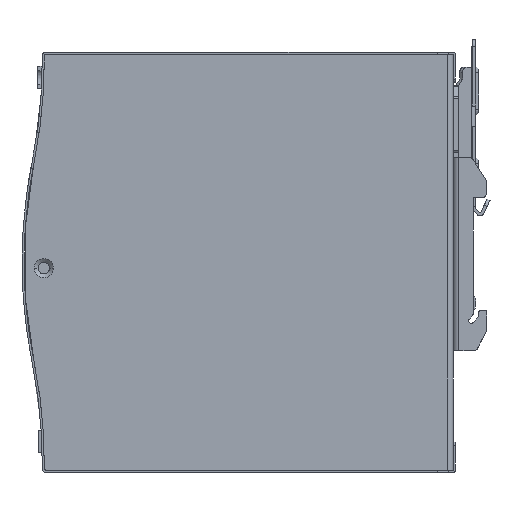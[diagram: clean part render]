
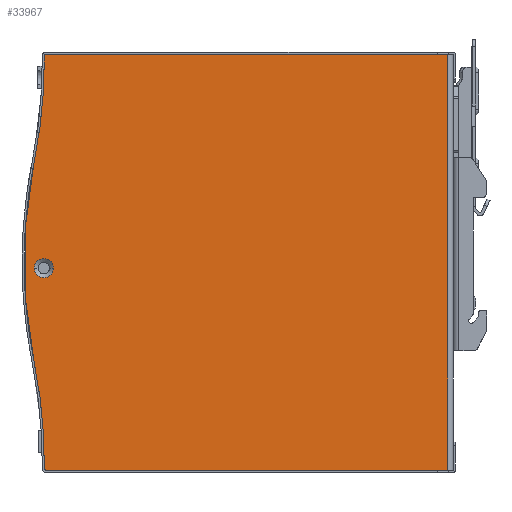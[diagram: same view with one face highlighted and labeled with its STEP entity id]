
A CAD part, front view. The second image highlights one B-rep face of the part: STEP entity #33967.
In plain terms, the highlighted planar face has unit normal (0, -1, 0).
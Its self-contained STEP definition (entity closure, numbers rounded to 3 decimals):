
#570 = VERTEX_POINT ( 'NONE', #96177 ) ;
#1833 = LINE ( 'NONE', #46969, #77829 ) ;
#3361 = ORIENTED_EDGE ( 'NONE', *, *, #22658, .T. ) ;
#3847 = CIRCLE ( 'NONE', #33055, 150. ) ;
#3962 = DIRECTION ( 'NONE',  ( 1., 0., 0. ) ) ;
#10955 = FACE_OUTER_BOUND ( 'NONE', #60571, .T. ) ;
#12974 = AXIS2_PLACEMENT_3D ( 'NONE', #92731, #93297, #56201 ) ;
#15645 = ORIENTED_EDGE ( 'NONE', *, *, #52865, .F. ) ;
#15703 = DIRECTION ( 'NONE',  ( 0., 0., -1. ) ) ;
#15890 = CARTESIAN_POINT ( 'NONE',  ( -21.597, 13.236, 10.25 ) ) ;
#16259 = CARTESIAN_POINT ( 'NONE',  ( -23.789, 13.236, 74. ) ) ;
#16973 = VERTEX_POINT ( 'NONE', #93602 ) ;
#17224 = DIRECTION ( 'NONE',  ( 0., 0., -1. ) ) ;
#18149 = CARTESIAN_POINT ( 'NONE',  ( -27.314, 13.236, 42.01 ) ) ;
#20495 = CARTESIAN_POINT ( 'NONE',  ( -24.447, 13.236, 10.25 ) ) ;
#21107 = CARTESIAN_POINT ( 'NONE',  ( -23.789, 13.236, -50. ) ) ;
#22658 = EDGE_CURVE ( 'NONE', #55565, #65569, #44097, .T. ) ;
#23880 = DIRECTION ( 'NONE',  ( 0., -1., 0. ) ) ;
#26128 = CIRCLE ( 'NONE', #79093, 150. ) ;
#26622 = DIRECTION ( 'NONE',  ( 0., -1., 0. ) ) ;
#26975 = ORIENTED_EDGE ( 'NONE', *, *, #112617, .F. ) ;
#26982 = CARTESIAN_POINT ( 'NONE',  ( -13.667, 13.236, 0. ) ) ;
#27677 = CIRCLE ( 'NONE', #42287, 0.5 ) ;
#27717 = CARTESIAN_POINT ( 'NONE',  ( 95.953, 13.236, 74. ) ) ;
#28277 = EDGE_CURVE ( 'NONE', #83700, #570, #27677, .T. ) ;
#29046 = AXIS2_PLACEMENT_3D ( 'NONE', #26982, #62431, #88710 ) ;
#29662 = LINE ( 'NONE', #21107, #58988 ) ;
#30377 = CARTESIAN_POINT ( 'NONE',  ( -23.789, 13.236, -50. ) ) ;
#33055 = AXIS2_PLACEMENT_3D ( 'NONE', #91170, #48366, #90062 ) ;
#33967 = ADVANCED_FACE ( 'NONE', ( #54426, #10955 ), #106386, .T. ) ;
#34578 = ORIENTED_EDGE ( 'NONE', *, *, #53829, .F. ) ;
#35781 = VERTEX_POINT ( 'NONE', #18149 ) ;
#36360 = VERTEX_POINT ( 'NONE', #27717 ) ;
#36457 = EDGE_CURVE ( 'NONE', #65569, #42978, #75124, .T. ) ;
#36705 = DIRECTION ( 'NONE',  ( 1., 0., 0. ) ) ;
#37991 = CIRCLE ( 'NONE', #47139, 2.85 ) ;
#38754 = CIRCLE ( 'NONE', #108055, 0.5 ) ;
#39354 = CARTESIAN_POINT ( 'NONE',  ( -23.789, 13.236, 73.5 ) ) ;
#40367 = AXIS2_PLACEMENT_3D ( 'NONE', #88643, #45219, #17224 ) ;
#40453 = EDGE_CURVE ( 'NONE', #35781, #97169, #44039, .T. ) ;
#42287 = AXIS2_PLACEMENT_3D ( 'NONE', #39354, #23880, #109588 ) ;
#42774 = EDGE_CURVE ( 'NONE', #35781, #43176, #26128, .T. ) ;
#42978 = VERTEX_POINT ( 'NONE', #30377 ) ;
#43039 = EDGE_CURVE ( 'NONE', #96104, #77966, #104336, .T. ) ;
#43176 = VERTEX_POINT ( 'NONE', #93221 ) ;
#44039 = CIRCLE ( 'NONE', #40367, 150. ) ;
#44051 = EDGE_LOOP ( 'NONE', ( #96654, #26975 ) ) ;
#44097 = CIRCLE ( 'NONE', #12974, 0.5 ) ;
#45219 = DIRECTION ( 'NONE',  ( 0., -1., 0. ) ) ;
#46969 = CARTESIAN_POINT ( 'NONE',  ( -23.789, 13.236, 74. ) ) ;
#47139 = AXIS2_PLACEMENT_3D ( 'NONE', #20495, #55387, #81629 ) ;
#48366 = DIRECTION ( 'NONE',  ( 0., -1., 0. ) ) ;
#48695 = CARTESIAN_POINT ( 'NONE',  ( -24.447, 13.236, 10.25 ) ) ;
#48779 = ORIENTED_EDGE ( 'NONE', *, *, #28277, .T. ) ;
#52865 = EDGE_CURVE ( 'NONE', #36360, #16973, #59155, .T. ) ;
#53829 = EDGE_CURVE ( 'NONE', #55565, #97169, #3847, .T. ) ;
#54426 = FACE_BOUND ( 'NONE', #44051, .T. ) ;
#55240 = CARTESIAN_POINT ( 'NONE',  ( -27.314, 13.236, -18.01 ) ) ;
#55387 = DIRECTION ( 'NONE',  ( 0., -1., 0. ) ) ;
#55565 = VERTEX_POINT ( 'NONE', #92161 ) ;
#56201 = DIRECTION ( 'NONE',  ( -1., 0., 0. ) ) ;
#58512 = DIRECTION ( 'NONE',  ( 0., -1., 0. ) ) ;
#58706 = ORIENTED_EDGE ( 'NONE', *, *, #104342, .T. ) ;
#58895 = ORIENTED_EDGE ( 'NONE', *, *, #42774, .F. ) ;
#58988 = VECTOR ( 'NONE', #3962, 1000. ) ;
#59155 = LINE ( 'NONE', #93981, #65766 ) ;
#60571 = EDGE_LOOP ( 'NONE', ( #71120, #15645, #64292, #48779, #58706, #58895, #75458, #34578, #3361, #98363 ) ) ;
#62431 = DIRECTION ( 'NONE',  ( 0., -1., 0. ) ) ;
#64292 = ORIENTED_EDGE ( 'NONE', *, *, #68963, .F. ) ;
#65569 = VERTEX_POINT ( 'NONE', #107608 ) ;
#65766 = VECTOR ( 'NONE', #15703, 1000. ) ;
#68963 = EDGE_CURVE ( 'NONE', #83700, #36360, #1833, .T. ) ;
#70632 = DIRECTION ( 'NONE',  ( -1., 0., 0. ) ) ;
#71120 = ORIENTED_EDGE ( 'NONE', *, *, #78906, .T. ) ;
#74934 = DIRECTION ( 'NONE',  ( 1., 0., 0. ) ) ;
#75124 = CIRCLE ( 'NONE', #86037, 0.5 ) ;
#75423 = AXIS2_PLACEMENT_3D ( 'NONE', #48695, #83514, #74934 ) ;
#75458 = ORIENTED_EDGE ( 'NONE', *, *, #40453, .T. ) ;
#77829 = VECTOR ( 'NONE', #36705, 1000. ) ;
#77966 = VERTEX_POINT ( 'NONE', #15890 ) ;
#78906 = EDGE_CURVE ( 'NONE', #42978, #16973, #29662, .T. ) ;
#79023 = CARTESIAN_POINT ( 'NONE',  ( -174.282, 13.236, 72.019 ) ) ;
#79093 = AXIS2_PLACEMENT_3D ( 'NONE', #79023, #88160, #87581 ) ;
#81629 = DIRECTION ( 'NONE',  ( 1., 0., 0. ) ) ;
#83169 = CARTESIAN_POINT ( 'NONE',  ( -27.297, 13.236, 10.25 ) ) ;
#83514 = DIRECTION ( 'NONE',  ( 0., -1., 0. ) ) ;
#83700 = VERTEX_POINT ( 'NONE', #16259 ) ;
#84214 = DIRECTION ( 'NONE',  ( -1., 0., 0. ) ) ;
#86037 = AXIS2_PLACEMENT_3D ( 'NONE', #111041, #58512, #84214 ) ;
#87581 = DIRECTION ( 'NONE',  ( 0., 0., -1. ) ) ;
#88160 = DIRECTION ( 'NONE',  ( 0., -1., 0. ) ) ;
#88643 = CARTESIAN_POINT ( 'NONE',  ( 119.653, 13.236, 12. ) ) ;
#88710 = DIRECTION ( 'NONE',  ( 0., 0., -1. ) ) ;
#90062 = DIRECTION ( 'NONE',  ( 0., 0., -1. ) ) ;
#91170 = CARTESIAN_POINT ( 'NONE',  ( -174.282, 13.236, -48.019 ) ) ;
#92161 = CARTESIAN_POINT ( 'NONE',  ( -24.289, 13.236, -49.495 ) ) ;
#92731 = CARTESIAN_POINT ( 'NONE',  ( -23.789, 13.236, -49.5 ) ) ;
#93221 = CARTESIAN_POINT ( 'NONE',  ( -24.289, 13.236, 73.495 ) ) ;
#93297 = DIRECTION ( 'NONE',  ( 0., -1., 0. ) ) ;
#93602 = CARTESIAN_POINT ( 'NONE',  ( 95.953, 13.236, -50. ) ) ;
#93981 = CARTESIAN_POINT ( 'NONE',  ( 95.953, 13.236, 74. ) ) ;
#96104 = VERTEX_POINT ( 'NONE', #83169 ) ;
#96177 = CARTESIAN_POINT ( 'NONE',  ( -24.289, 13.236, 73.5 ) ) ;
#96654 = ORIENTED_EDGE ( 'NONE', *, *, #43039, .F. ) ;
#97169 = VERTEX_POINT ( 'NONE', #55240 ) ;
#98363 = ORIENTED_EDGE ( 'NONE', *, *, #36457, .T. ) ;
#104336 = CIRCLE ( 'NONE', #75423, 2.85 ) ;
#104342 = EDGE_CURVE ( 'NONE', #570, #43176, #38754, .T. ) ;
#104904 = CARTESIAN_POINT ( 'NONE',  ( -23.789, 13.236, 73.5 ) ) ;
#106386 = PLANE ( 'NONE',  #29046 ) ;
#107608 = CARTESIAN_POINT ( 'NONE',  ( -24.289, 13.236, -49.5 ) ) ;
#108055 = AXIS2_PLACEMENT_3D ( 'NONE', #104904, #26622, #70632 ) ;
#109588 = DIRECTION ( 'NONE',  ( -1., 0., 0. ) ) ;
#111041 = CARTESIAN_POINT ( 'NONE',  ( -23.789, 13.236, -49.5 ) ) ;
#112617 = EDGE_CURVE ( 'NONE', #77966, #96104, #37991, .T. ) ;
